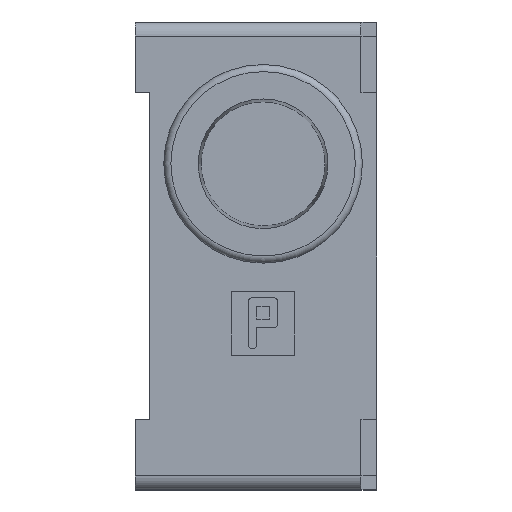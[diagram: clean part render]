
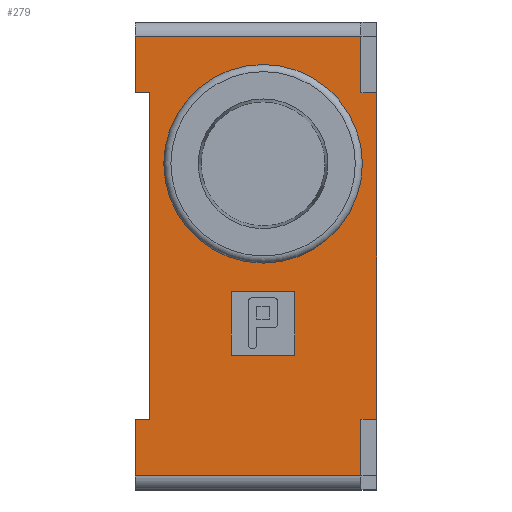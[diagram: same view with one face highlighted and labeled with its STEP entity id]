
A CAD part, left-side view. The second image highlights one B-rep face of the part: STEP entity #279.
In plain terms, the highlighted planar face has unit normal (-1, 0, 0).
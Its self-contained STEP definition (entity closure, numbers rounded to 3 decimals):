
#279=ADVANCED_FACE('',(#634,#635,#636),#637,.F.);
#634=FACE_BOUND('',#1223,.T.);
#635=FACE_OUTER_BOUND('',#1224,.T.);
#636=FACE_BOUND('',#1225,.T.);
#637=PLANE('',#1226);
#1223=EDGE_LOOP('',(#2267));
#1224=EDGE_LOOP('',(#2268,#2269,#2270,#2271,#2272,#2273,#2274,#2275,#2276,#2277,#2278,#2279));
#1225=EDGE_LOOP('',(#2280,#2281,#2282,#2283));
#1226=AXIS2_PLACEMENT_3D('',#2284,#2285,#2286);
#2267=ORIENTED_EDGE('',*,*,#4080,.F.);
#2268=ORIENTED_EDGE('',*,*,#4081,.F.);
#2269=ORIENTED_EDGE('',*,*,#4082,.T.);
#2270=ORIENTED_EDGE('',*,*,#3979,.T.);
#2271=ORIENTED_EDGE('',*,*,#4083,.F.);
#2272=ORIENTED_EDGE('',*,*,#4084,.T.);
#2273=ORIENTED_EDGE('',*,*,#3930,.T.);
#2274=ORIENTED_EDGE('',*,*,#4085,.F.);
#2275=ORIENTED_EDGE('',*,*,#4086,.F.);
#2276=ORIENTED_EDGE('',*,*,#3970,.T.);
#2277=ORIENTED_EDGE('',*,*,#4087,.T.);
#2278=ORIENTED_EDGE('',*,*,#4088,.T.);
#2279=ORIENTED_EDGE('',*,*,#3939,.F.);
#2280=ORIENTED_EDGE('',*,*,#4012,.T.);
#2281=ORIENTED_EDGE('',*,*,#4016,.T.);
#2282=ORIENTED_EDGE('',*,*,#4089,.T.);
#2283=ORIENTED_EDGE('',*,*,#4090,.T.);
#2284=CARTESIAN_POINT('',(9.0,13.556,44.778));
#2285=DIRECTION('',(1.0,0.0,0.0));
#2286=DIRECTION('',(0.0,0.0,-1.0));
#3930=EDGE_CURVE('',#4710,#4708,#4711,.T.);
#3939=EDGE_CURVE('',#4725,#4727,#4728,.T.);
#3970=EDGE_CURVE('',#4789,#4787,#4790,.T.);
#3979=EDGE_CURVE('',#4805,#4806,#4807,.F.);
#4012=EDGE_CURVE('',#4857,#4858,#4859,.T.);
#4016=EDGE_CURVE('',#4858,#4865,#4866,.T.);
#4080=EDGE_CURVE('',#4964,#4964,#4965,.T.);
#4081=EDGE_CURVE('',#4966,#4725,#4967,.T.);
#4082=EDGE_CURVE('',#4966,#4805,#4968,.T.);
#4083=EDGE_CURVE('',#4969,#4806,#4970,.T.);
#4084=EDGE_CURVE('',#4969,#4710,#4971,.T.);
#4085=EDGE_CURVE('',#4972,#4708,#4973,.T.);
#4086=EDGE_CURVE('',#4789,#4972,#4974,.T.);
#4087=EDGE_CURVE('',#4787,#4975,#4976,.T.);
#4088=EDGE_CURVE('',#4975,#4727,#4977,.T.);
#4089=EDGE_CURVE('',#4865,#4978,#4979,.T.);
#4090=EDGE_CURVE('',#4978,#4857,#4980,.T.);
#4708=VERTEX_POINT('',#6249);
#4710=VERTEX_POINT('',#6252);
#4711=LINE('',#6253,#6254);
#4725=VERTEX_POINT('',#6274);
#4727=VERTEX_POINT('',#6277);
#4728=LINE('',#6278,#6279);
#4787=VERTEX_POINT('',#6363);
#4789=VERTEX_POINT('',#6365);
#4790=LINE('',#6366,#6367);
#4805=VERTEX_POINT('',#6385);
#4806=VERTEX_POINT('',#6386);
#4807=LINE('',#6387,#6388);
#4857=VERTEX_POINT('',#6498);
#4858=VERTEX_POINT('',#6499);
#4859=LINE('',#6500,#6501);
#4865=VERTEX_POINT('',#6510);
#4866=LINE('',#6511,#6512);
#4964=VERTEX_POINT('',#6707);
#4965=CIRCLE('',#6708,7.0);
#4966=VERTEX_POINT('',#6709);
#4967=LINE('',#6710,#6711);
#4968=LINE('',#6712,#6713);
#4969=VERTEX_POINT('',#6714);
#4970=LINE('',#6715,#6716);
#4971=LINE('',#6717,#6718);
#4972=VERTEX_POINT('',#6719);
#4973=LINE('',#6720,#6721);
#4974=LINE('',#6722,#6723);
#4975=VERTEX_POINT('',#6724);
#4976=LINE('',#6725,#6726);
#4977=LINE('',#6727,#6728);
#4978=VERTEX_POINT('',#6729);
#4979=LINE('',#6730,#6731);
#4980=LINE('',#6732,#6733);
#6249=CARTESIAN_POINT('',(9.0,13.556,16.778));
#6252=CARTESIAN_POINT('',(9.0,13.556,39.778));
#6253=CARTESIAN_POINT('',(9.0,13.556,44.778));
#6254=VECTOR('',#7806,1.0);
#6274=CARTESIAN_POINT('',(9.0,-2.444,39.778));
#6277=CARTESIAN_POINT('',(9.0,-2.444,16.778));
#6278=CARTESIAN_POINT('',(9.0,-2.444,44.778));
#6279=VECTOR('',#7817,1.0);
#6363=CARTESIAN_POINT('',(9.,-1.344,12.778));
#6365=CARTESIAN_POINT('',(9.,14.556,12.778));
#6366=CARTESIAN_POINT('',(9.0,13.556,12.778));
#6367=VECTOR('',#7858,1.0);
#6385=CARTESIAN_POINT('',(9.0,-1.344,43.778));
#6386=CARTESIAN_POINT('',(9.0,14.556,43.778));
#6387=CARTESIAN_POINT('',(9.0,13.556,43.778));
#6388=VECTOR('',#7877,1.0);
#6498=CARTESIAN_POINT('',(9.0,7.806,21.278));
#6499=CARTESIAN_POINT('',(9.0,7.806,25.778));
#6500=CARTESIAN_POINT('',(9.0,7.806,21.278));
#6501=VECTOR('',#7919,1.0);
#6510=CARTESIAN_POINT('',(9.0,3.306,25.778));
#6511=CARTESIAN_POINT('',(9.0,7.806,25.778));
#6512=VECTOR('',#7923,1.0);
#6707=CARTESIAN_POINT('',(9.0,12.556,34.778));
#6708=AXIS2_PLACEMENT_3D('',#8006,#8007,#8008);
#6709=CARTESIAN_POINT('',(9.0,-1.344,39.778));
#6710=CARTESIAN_POINT('',(9.0,-1.344,39.778));
#6711=VECTOR('',#8009,1.0);
#6712=CARTESIAN_POINT('',(9.0,-1.344,39.778));
#6713=VECTOR('',#8010,1.0);
#6714=CARTESIAN_POINT('',(9.0,14.556,39.778));
#6715=CARTESIAN_POINT('',(9.0,14.556,39.778));
#6716=VECTOR('',#8011,1.0);
#6717=CARTESIAN_POINT('',(9.0,14.556,39.778));
#6718=VECTOR('',#8012,1.0);
#6719=CARTESIAN_POINT('',(9.0,14.556,16.778));
#6720=CARTESIAN_POINT('',(9.0,14.556,16.778));
#6721=VECTOR('',#8013,1.0);
#6722=CARTESIAN_POINT('',(9.0,14.556,12.778));
#6723=VECTOR('',#8014,1.0);
#6724=CARTESIAN_POINT('',(9.0,-1.344,16.778));
#6725=CARTESIAN_POINT('',(9.,-1.344,12.778));
#6726=VECTOR('',#8015,1.0);
#6727=CARTESIAN_POINT('',(9.0,-1.344,16.778));
#6728=VECTOR('',#8016,1.0);
#6729=CARTESIAN_POINT('',(9.0,3.306,21.278));
#6730=CARTESIAN_POINT('',(9.0,3.306,25.778));
#6731=VECTOR('',#8017,1.0);
#6732=CARTESIAN_POINT('',(9.0,3.306,21.278));
#6733=VECTOR('',#8018,1.0);
#7806=DIRECTION('',(0.0,0.0,-1.0));
#7817=DIRECTION('',(0.0,0.0,-1.0));
#7858=DIRECTION('',(0.0,-1.0,0.0));
#7877=DIRECTION('',(0.0,-1.0,0.0));
#7919=DIRECTION('',(0.0,0.,1.0));
#7923=DIRECTION('',(0.0,-1.0,0.0));
#8006=CARTESIAN_POINT('',(9.0,5.556,34.778));
#8007=DIRECTION('',(-1.0,0.0,0.0));
#8008=DIRECTION('',(0.0,1.0,0.0));
#8009=DIRECTION('',(0.0,-1.0,0.0));
#8010=DIRECTION('',(0.,0.0,1.0));
#8011=DIRECTION('',(0.,0.0,1.0));
#8012=DIRECTION('',(0.0,-1.0,0.0));
#8013=DIRECTION('',(0.0,-1.0,0.0));
#8014=DIRECTION('',(0.,0.0,1.0));
#8015=DIRECTION('',(0.,0.0,1.0));
#8016=DIRECTION('',(0.0,-1.0,0.0));
#8017=DIRECTION('',(0.0,0.0,-1.0));
#8018=DIRECTION('',(0.0,1.0,0.0));
